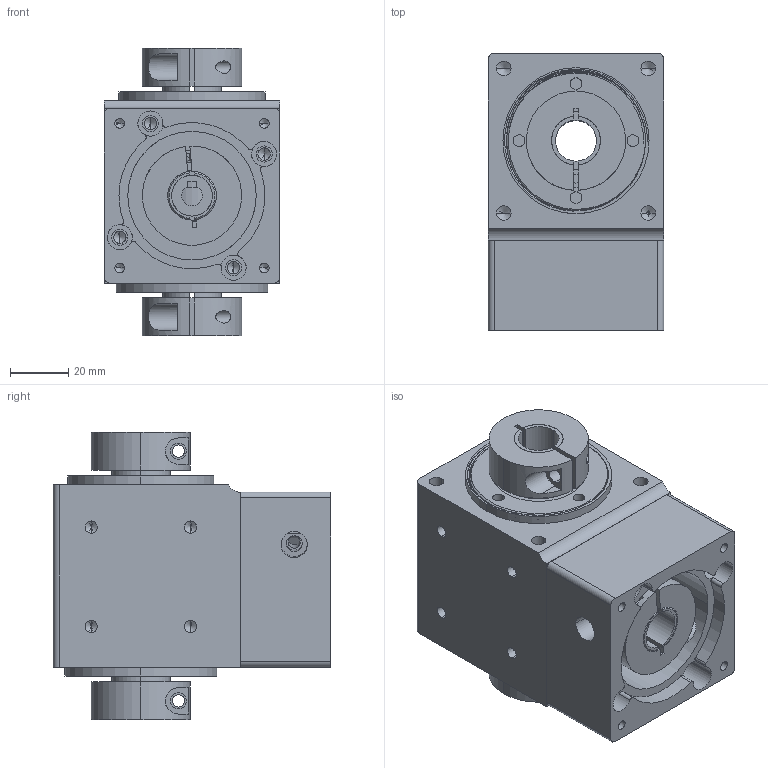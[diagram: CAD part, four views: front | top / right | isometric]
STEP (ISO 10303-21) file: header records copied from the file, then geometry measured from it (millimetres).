
FILE_DESCRIPTION (( 'STEP AP203' ), '1' );
FILE_NAME ('ZH060双孔装配图（400W）.STEP', '2019-11-13T13:22:24', ( '微软用户' ), ( '微软中国' ), 'SwSTEP 2.0', 'SolidWorks 2015', '' );
FILE_SCHEMA (( 'CONFIG_CONTROL_DESIGN' ));
Length unit declared in the file: millimetre
Products named in the file (10): 30204_Rolling bearings 30204 GB 297-94; 20-32-5蚐猾; 6003_Rolling bearings 6003 GB 276-94; ZB060邧謂怀堤粣; 褲极; ZH060双孔装配图（400W）; 綴楊擘1; 標杶; 蹟譫; 输入轴
Assembly tree (14 placements, depth 2):
  ZH060双孔装配图（400W）
    褲极
    綴楊擘1
    標杶  x3
    蹟譫  x2
    输入轴
    6003_Rolling bearings 6003 GB 276-94
    30204_Rolling bearings 30204 GB 297-94  x2
    20-32-5蚐猾  x2
    ZB060邧謂怀堤粣
Bounding box: 60 x 95 x 98.5 mm (x, y, z)
Volume: 268066.3 mm3; surface area: 124828.1 mm2
Topology: 14 solids, 14 shells, 860 faces, 2856 edges, 1849 vertices
Faces by surface type: cylinder 274, plane 203, torus 198, cone 139, sphere 34, bspline 12
Entity records: 30155 total; most frequent: CARTESIAN_POINT 12009, ORIENTED_EDGE 3816, DIRECTION 3425, EDGE_CURVE 1908, AXIS2_PLACEMENT_3D 1499, VERTEX_POINT 1260, CIRCLE 863, EDGE_LOOP 752
